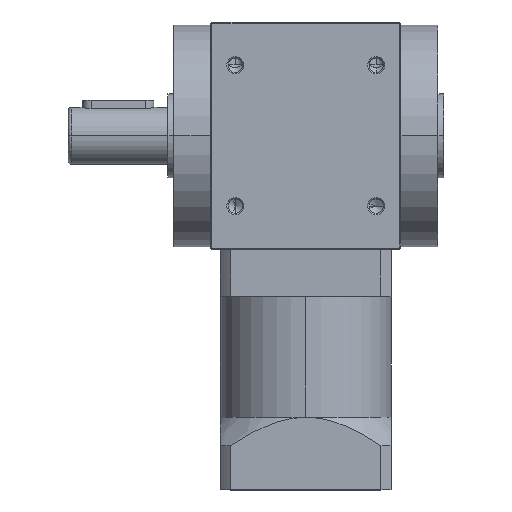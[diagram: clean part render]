
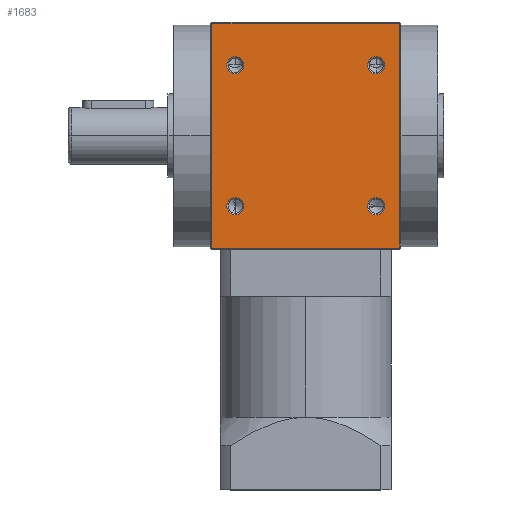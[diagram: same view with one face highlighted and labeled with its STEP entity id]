
A CAD part, top view. The second image highlights one B-rep face of the part: STEP entity #1683.
In plain terms, the highlighted planar face has unit normal (0, 0, 1).
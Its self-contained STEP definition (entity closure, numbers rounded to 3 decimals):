
#191 = ORIENTED_EDGE ( 'NONE', *, *, #5126, .F. ) ;
#331 = VECTOR ( 'NONE', #3676, 1000. ) ;
#514 = ORIENTED_EDGE ( 'NONE', *, *, #750, .F. ) ;
#732 = CARTESIAN_POINT ( 'NONE',  ( 21.75, 24.75, 40. ) ) ;
#750 = EDGE_CURVE ( 'NONE', #5622, #9083, #5905, .T. ) ;
#829 = AXIS2_PLACEMENT_3D ( 'NONE', #8937, #4267, #9712 ) ;
#880 = CIRCLE ( 'NONE', #5611, 3. ) ;
#898 = DIRECTION ( 'NONE',  ( 0., 0., 1. ) ) ;
#936 = EDGE_LOOP ( 'NONE', ( #9442, #9308, #9005, #8823 ) ) ;
#995 = ORIENTED_EDGE ( 'NONE', *, *, #8858, .F. ) ;
#1113 = VERTEX_POINT ( 'NONE', #732 ) ;
#1203 = AXIS2_PLACEMENT_3D ( 'NONE', #2150, #7648, #2922 ) ;
#1222 = AXIS2_PLACEMENT_3D ( 'NONE', #5624, #898, #6431 ) ;
#1236 = CARTESIAN_POINT ( 'NONE',  ( -21.75, -24.75, 40. ) ) ;
#1302 = CARTESIAN_POINT ( 'NONE',  ( 33.5, -39.5, 40. ) ) ;
#1345 = EDGE_CURVE ( 'NONE', #2283, #7585, #9652, .T. ) ;
#1420 = ORIENTED_EDGE ( 'NONE', *, *, #2986, .F. ) ;
#1683 = ADVANCED_FACE ( 'NONE', ( #2731, #4368, #2592, #7743, #2559 ), #6298, .F. ) ;
#1757 = ORIENTED_EDGE ( 'NONE', *, *, #6745, .F. ) ;
#1882 = DIRECTION ( 'NONE',  ( 0., 1., 0. ) ) ;
#2127 = CARTESIAN_POINT ( 'NONE',  ( -21.75, 24.75, 40. ) ) ;
#2150 = CARTESIAN_POINT ( 'NONE',  ( 24.75, -24.75, 40. ) ) ;
#2192 = DIRECTION ( 'NONE',  ( 0., 0., 1. ) ) ;
#2212 = DIRECTION ( 'NONE',  ( 0., 0., 1. ) ) ;
#2283 = VERTEX_POINT ( 'NONE', #7276 ) ;
#2296 = CARTESIAN_POINT ( 'NONE',  ( -27.75, -24.75, 40. ) ) ;
#2355 = LINE ( 'NONE', #6607, #2432 ) ;
#2432 = VECTOR ( 'NONE', #1882, 1000. ) ;
#2519 = CARTESIAN_POINT ( 'NONE',  ( 33., -39.5, 40. ) ) ;
#2543 = VERTEX_POINT ( 'NONE', #2519 ) ;
#2559 = FACE_OUTER_BOUND ( 'NONE', #936, .T. ) ;
#2592 = FACE_BOUND ( 'NONE', #6328, .T. ) ;
#2645 = CIRCLE ( 'NONE', #829, 3. ) ;
#2652 = EDGE_CURVE ( 'NONE', #1113, #7528, #6529, .T. ) ;
#2731 = FACE_BOUND ( 'NONE', #2755, .T. ) ;
#2755 = EDGE_LOOP ( 'NONE', ( #1757, #1420 ) ) ;
#2781 = VERTEX_POINT ( 'NONE', #2296 ) ;
#2855 = DIRECTION ( 'NONE',  ( 1., 0., 0. ) ) ;
#2881 = CARTESIAN_POINT ( 'NONE',  ( 33., 40., 40. ) ) ;
#2904 = CARTESIAN_POINT ( 'NONE',  ( -33., 39.5, 40. ) ) ;
#2922 = DIRECTION ( 'NONE',  ( 1., 0., 0. ) ) ;
#2986 = EDGE_CURVE ( 'NONE', #2781, #8276, #3774, .T. ) ;
#3058 = VERTEX_POINT ( 'NONE', #5461 ) ;
#3176 = ORIENTED_EDGE ( 'NONE', *, *, #10100, .F. ) ;
#3270 = CARTESIAN_POINT ( 'NONE',  ( 27.75, -24.75, 40. ) ) ;
#3676 = DIRECTION ( 'NONE',  ( 0., -1., 0. ) ) ;
#3774 = CIRCLE ( 'NONE', #7687, 3. ) ;
#3898 = CIRCLE ( 'NONE', #6792, 3. ) ;
#4011 = DIRECTION ( 'NONE',  ( 1., 0., 0. ) ) ;
#4022 = DIRECTION ( 'NONE',  ( 0., 0., 1. ) ) ;
#4039 = CARTESIAN_POINT ( 'NONE',  ( 24.75, -24.75, 40. ) ) ;
#4150 = CARTESIAN_POINT ( 'NONE',  ( 24.75, 24.75, 40. ) ) ;
#4267 = DIRECTION ( 'NONE',  ( 0., 0., 1. ) ) ;
#4368 = FACE_BOUND ( 'NONE', #5434, .T. ) ;
#5126 = EDGE_CURVE ( 'NONE', #7528, #1113, #880, .T. ) ;
#5191 = LINE ( 'NONE', #1302, #10054 ) ;
#5434 = EDGE_LOOP ( 'NONE', ( #995, #514 ) ) ;
#5461 = CARTESIAN_POINT ( 'NONE',  ( -27.75, 24.75, 40. ) ) ;
#5591 = DIRECTION ( 'NONE',  ( -1., 0., 0. ) ) ;
#5611 = AXIS2_PLACEMENT_3D ( 'NONE', #6425, #6367, #6329 ) ;
#5622 = VERTEX_POINT ( 'NONE', #8260 ) ;
#5623 = DIRECTION ( 'NONE',  ( 0., 0., -1. ) ) ;
#5624 = CARTESIAN_POINT ( 'NONE',  ( -24.75, 24.75, 40. ) ) ;
#5656 = CARTESIAN_POINT ( 'NONE',  ( 33.5, 40., 40. ) ) ;
#5905 = CIRCLE ( 'NONE', #9633, 3. ) ;
#5996 = CARTESIAN_POINT ( 'NONE',  ( 27.75, 24.75, 40. ) ) ;
#6037 = AXIS2_PLACEMENT_3D ( 'NONE', #4150, #2212, #2855 ) ;
#6178 = EDGE_CURVE ( 'NONE', #3058, #9928, #3898, .T. ) ;
#6217 = DIRECTION ( 'NONE',  ( 1., 0., 0. ) ) ;
#6257 = DIRECTION ( 'NONE',  ( 0., 0., 1. ) ) ;
#6298 = PLANE ( 'NONE',  #8274 ) ;
#6323 = CARTESIAN_POINT ( 'NONE',  ( -24.75, -24.75, 40. ) ) ;
#6328 = EDGE_LOOP ( 'NONE', ( #191, #9787 ) ) ;
#6329 = DIRECTION ( 'NONE',  ( 1., 0., 0. ) ) ;
#6367 = DIRECTION ( 'NONE',  ( 0., 0., 1. ) ) ;
#6425 = CARTESIAN_POINT ( 'NONE',  ( 24.75, 24.75, 40. ) ) ;
#6431 = DIRECTION ( 'NONE',  ( 1., 0., 0. ) ) ;
#6529 = CIRCLE ( 'NONE', #6037, 3. ) ;
#6607 = CARTESIAN_POINT ( 'NONE',  ( -33., 40., 40. ) ) ;
#6732 = EDGE_CURVE ( 'NONE', #8571, #7585, #2355, .T. ) ;
#6745 = EDGE_CURVE ( 'NONE', #8276, #2781, #2645, .T. ) ;
#6792 = AXIS2_PLACEMENT_3D ( 'NONE', #6925, #2192, #7705 ) ;
#6895 = EDGE_CURVE ( 'NONE', #2543, #8571, #5191, .T. ) ;
#6925 = CARTESIAN_POINT ( 'NONE',  ( -24.75, 24.75, 40. ) ) ;
#7276 = CARTESIAN_POINT ( 'NONE',  ( 33., 39.5, 40. ) ) ;
#7286 = EDGE_LOOP ( 'NONE', ( #3176, #9524 ) ) ;
#7528 = VERTEX_POINT ( 'NONE', #5996 ) ;
#7585 = VERTEX_POINT ( 'NONE', #2904 ) ;
#7648 = DIRECTION ( 'NONE',  ( 0., 0., 1. ) ) ;
#7687 = AXIS2_PLACEMENT_3D ( 'NONE', #6323, #6257, #6217 ) ;
#7705 = DIRECTION ( 'NONE',  ( 1., 0., 0. ) ) ;
#7726 = LINE ( 'NONE', #2881, #331 ) ;
#7743 = FACE_BOUND ( 'NONE', #7286, .T. ) ;
#7850 = CIRCLE ( 'NONE', #1222, 3. ) ;
#8260 = CARTESIAN_POINT ( 'NONE',  ( 21.75, -24.75, 40. ) ) ;
#8274 = AXIS2_PLACEMENT_3D ( 'NONE', #5656, #5623, #5591 ) ;
#8276 = VERTEX_POINT ( 'NONE', #1236 ) ;
#8304 = EDGE_CURVE ( 'NONE', #2283, #2543, #7726, .T. ) ;
#8571 = VERTEX_POINT ( 'NONE', #8791 ) ;
#8791 = CARTESIAN_POINT ( 'NONE',  ( -33., -39.5, 40. ) ) ;
#8823 = ORIENTED_EDGE ( 'NONE', *, *, #8304, .F. ) ;
#8858 = EDGE_CURVE ( 'NONE', #9083, #5622, #9078, .T. ) ;
#8937 = CARTESIAN_POINT ( 'NONE',  ( -24.75, -24.75, 40. ) ) ;
#9005 = ORIENTED_EDGE ( 'NONE', *, *, #6895, .F. ) ;
#9009 = VECTOR ( 'NONE', #9361, 1000. ) ;
#9078 = CIRCLE ( 'NONE', #1203, 3. ) ;
#9083 = VERTEX_POINT ( 'NONE', #3270 ) ;
#9308 = ORIENTED_EDGE ( 'NONE', *, *, #6732, .F. ) ;
#9361 = DIRECTION ( 'NONE',  ( -1., 0., 0. ) ) ;
#9442 = ORIENTED_EDGE ( 'NONE', *, *, #1345, .T. ) ;
#9524 = ORIENTED_EDGE ( 'NONE', *, *, #6178, .F. ) ;
#9633 = AXIS2_PLACEMENT_3D ( 'NONE', #4039, #4022, #4011 ) ;
#9652 = LINE ( 'NONE', #9722, #9009 ) ;
#9712 = DIRECTION ( 'NONE',  ( 1., 0., 0. ) ) ;
#9722 = CARTESIAN_POINT ( 'NONE',  ( 33.5, 39.5, 40. ) ) ;
#9787 = ORIENTED_EDGE ( 'NONE', *, *, #2652, .F. ) ;
#9912 = DIRECTION ( 'NONE',  ( -1., 0., 0. ) ) ;
#9928 = VERTEX_POINT ( 'NONE', #2127 ) ;
#10054 = VECTOR ( 'NONE', #9912, 1000. ) ;
#10100 = EDGE_CURVE ( 'NONE', #9928, #3058, #7850, .T. ) ;
